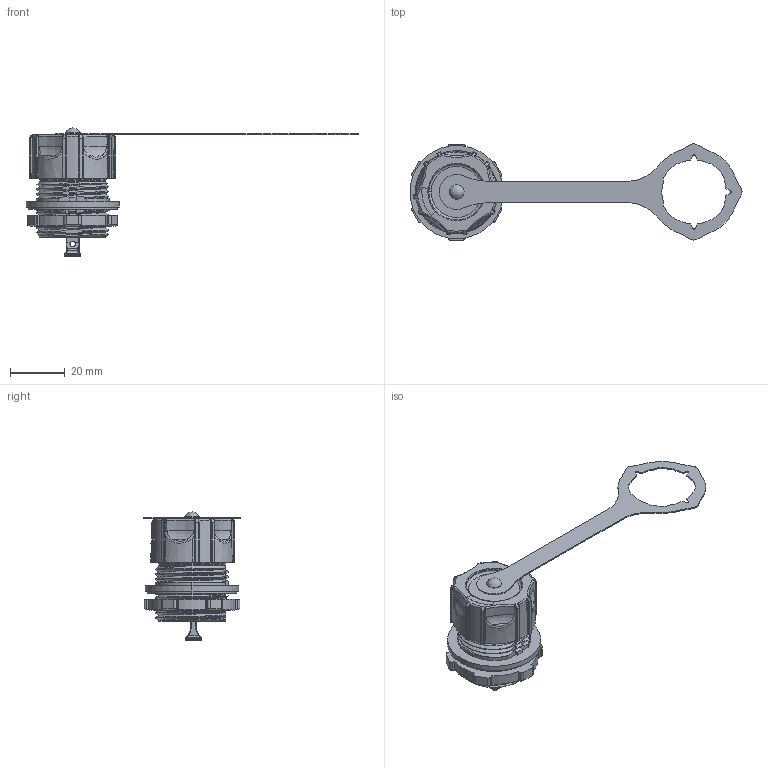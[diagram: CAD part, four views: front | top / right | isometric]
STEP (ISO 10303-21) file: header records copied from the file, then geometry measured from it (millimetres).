
FILE_DESCRIPTION (( 'STEP AP203' ), '1' );
FILE_NAME ('P- ()RevA - .step', '2022-03-17T19:31:48', ( 'Admin' ), ( '' ), 'SwSTEP 2.0', 'SolidWorks 2021', '' );
FILE_SCHEMA (( 'CONFIG_CONTROL_DESIGN' ));
Length unit declared in the file: millimetre
Products named in the file (1): P- ()RevA - 
Bounding box: 120.86 x 35 x 46.62 mm (x, y, z)
Surface area: 13895.6 mm2 (no closed solid volume)
Topology: 0 solids, 10 shells, 506 faces, 1537 edges, 1036 vertices
Faces by surface type: cylinder 218, plane 140, bspline 97, cone 30, torus 19, sphere 2
Entity records: 24253 total; most frequent: CARTESIAN_POINT 11977, ORIENTED_EDGE 2801, DIRECTION 2089, EDGE_CURVE 1535, VERTEX_POINT 1036, AXIS2_PLACEMENT_3D 788, B_SPLINE_CURVE_WITH_KNOTS 546, EDGE_LOOP 536
